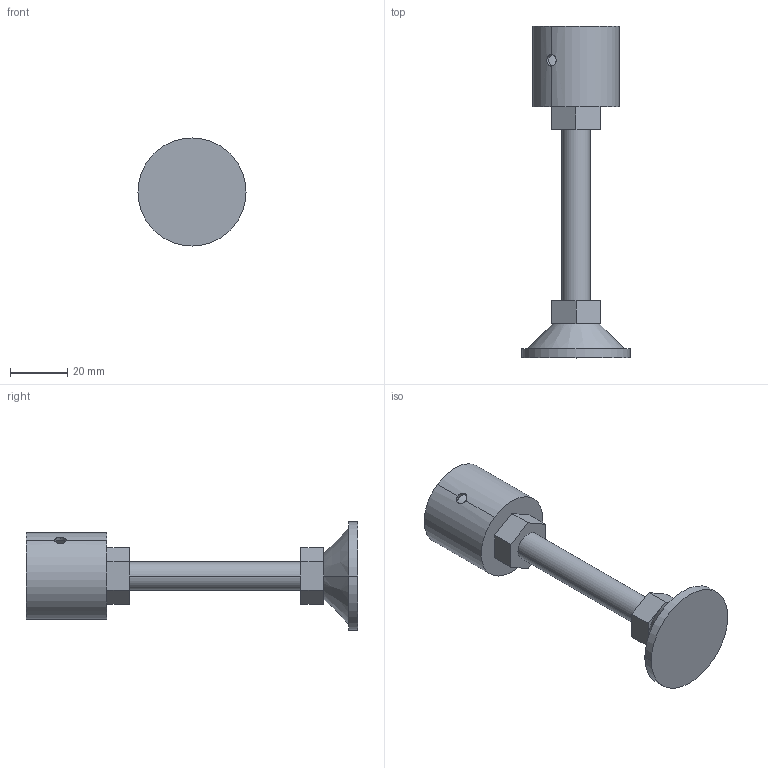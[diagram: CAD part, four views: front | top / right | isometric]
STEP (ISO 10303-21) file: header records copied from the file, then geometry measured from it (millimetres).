
FILE_DESCRIPTION (( 'STEP AP214' ), '1' );
FILE_NAME ('JB-414.step', '2024-02-15T05:11:56', ( 'catia' ), ( 'HP Inc.' ), 'SwSTEP 2.0', 'SolidWorks 2021', '' );
FILE_SCHEMA (( 'AUTOMOTIVE_DESIGN' ));
Length unit declared in the file: millimetre
Products named in the file (4): JB-414; JB-414_轡寶M10; JB-414_2
Assembly tree (3 placements, depth 2):
  JB-414
    JB-414_2
    JB-414
    JB-414_轡寶M10
Bounding box: 37.8 x 116.01 x 37.8 mm (x, y, z)
Volume: 22536.4 mm3; surface area: 13876.3 mm2
Topology: 3 solids, 3 shells, 40 faces, 102 edges, 68 vertices
Faces by surface type: plane 22, cylinder 16, cone 2
Entity records: 1576 total; most frequent: CARTESIAN_POINT 440, DIRECTION 206, ORIENTED_EDGE 204, EDGE_CURVE 102, AXIS2_PLACEMENT_3D 74, VERTEX_POINT 68, VECTOR 58, LINE 58
